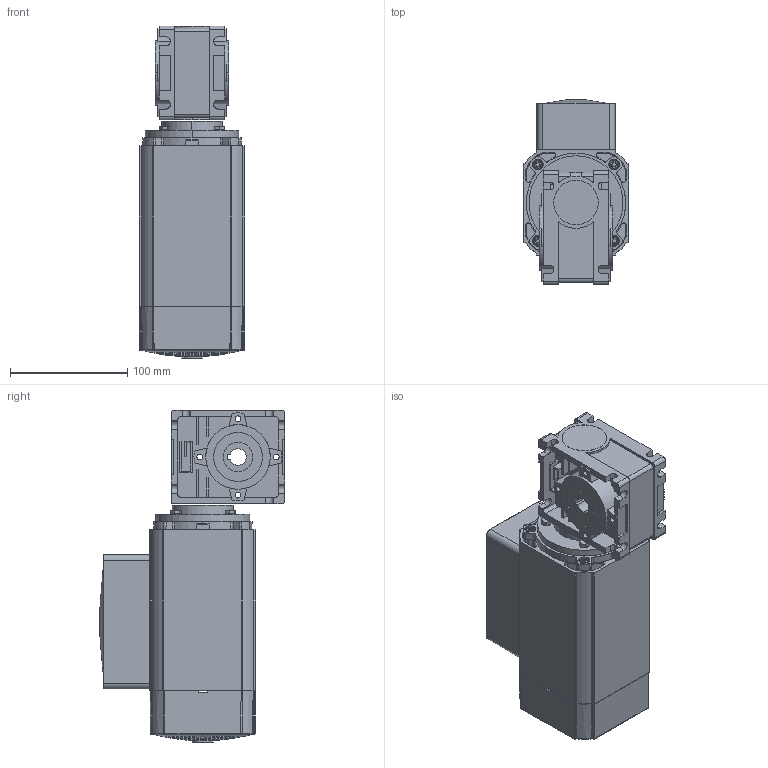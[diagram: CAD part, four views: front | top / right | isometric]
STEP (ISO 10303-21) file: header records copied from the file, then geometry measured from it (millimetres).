
FILE_DESCRIPTION (( 'STEP AP203' ), '1' );
FILE_NAME ('AC8060FC-RA3000T.STEP', '2008-06-30T20:17:48', ( 'eng-rjs' ), ( 'groschopp' ), 'SwSTEP 2.0', 'SolidWorks 2008', '' );
FILE_SCHEMA (( 'CONFIG_CONTROL_DESIGN' ));
Length unit declared in the file: inch
Products named in the file (1): AC8060FC-RA3000T
Bounding box: 90.25 x 158.37 x 282.83 mm (x, y, z)
Surface area: 245223.5 mm2 (no closed solid volume)
Topology: 0 solids, 35 shells, 1211 faces, 3969 edges, 2712 vertices
Faces by surface type: plane 782, cylinder 276, cone 57, bspline 55, torus 31, sphere 10
Entity records: 46204 total; most frequent: CARTESIAN_POINT 11553, DIRECTION 7517, ORIENTED_EDGE 6649, EDGE_CURVE 3953, AXIS2_PLACEMENT_3D 2792, VERTEX_POINT 2712, VECTOR 1933, LINE 1933
